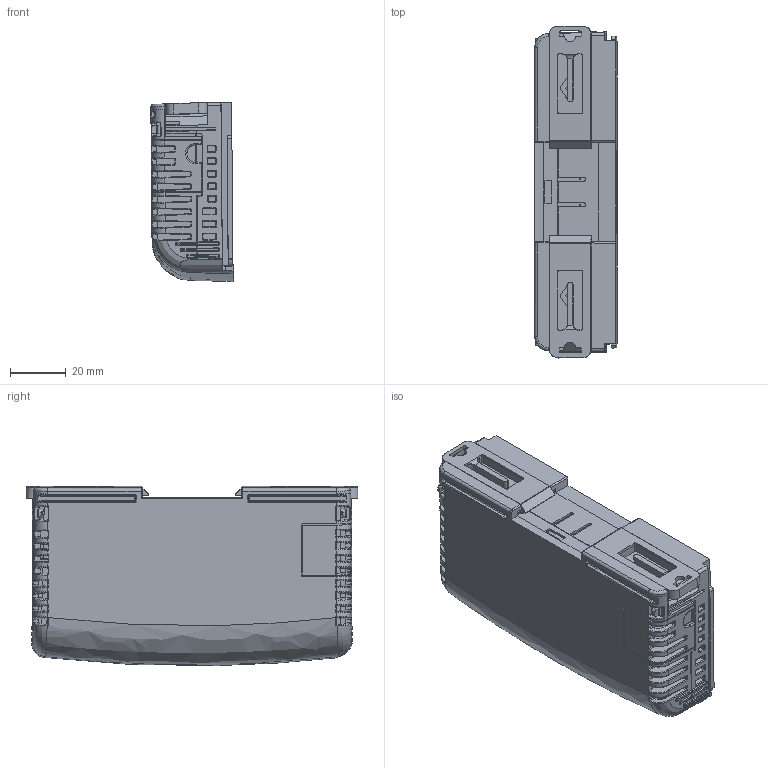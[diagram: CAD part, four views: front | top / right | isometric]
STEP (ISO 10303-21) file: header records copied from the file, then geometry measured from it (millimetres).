
FILE_DESCRIPTION (( 'STEP AP214' ), '1' );
FILE_NAME ('UniStream Exp End Unit.STEP', '2014-10-20T07:20:34', ( 'dell' ), ( '' ), 'SwSTEP 2.0', 'SolidWorks 2011', '' );
FILE_SCHEMA (( 'AUTOMOTIVE_DESIGN' ));
Products named in the file (1): UniStream Exp End Unit
Bounding box: 29.55 x 119.21 x 64.33 mm (x, y, z)
Volume: 180379 mm3; surface area: 45560.1 mm2
Topology: 1 solids, 3 shells, 2185 faces, 6061 edges, 3842 vertices
Faces by surface type: plane 1123, cylinder 646, bspline 327, cone 41, torus 28, sphere 20
Entity records: 74969 total; most frequent: CARTESIAN_POINT 23484, ORIENTED_EDGE 12114, DIRECTION 9143, EDGE_CURVE 6057, LINE 3851, VECTOR 3851, VERTEX_POINT 3842, AXIS2_PLACEMENT_3D 2646
